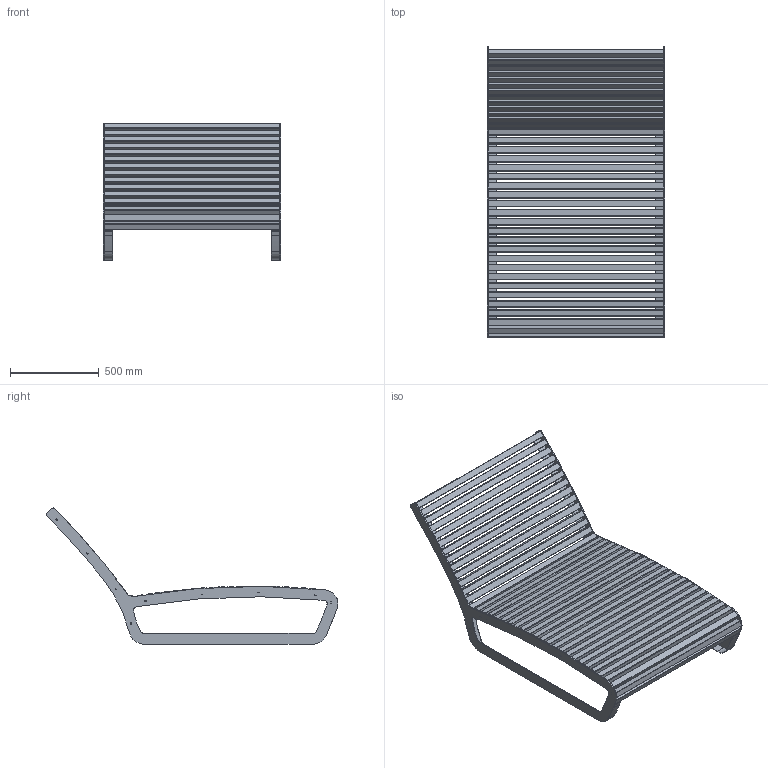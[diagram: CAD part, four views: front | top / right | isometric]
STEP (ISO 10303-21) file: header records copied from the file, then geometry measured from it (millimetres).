
FILE_DESCRIPTION(/* description */ (''),/* implementation_level */ '2;1');
FILE_NAME(/* name */ 'LTR020.01 SIMPLE.step',/* time_stamp */ '2023-08-29T15:32:54+02:00',/* author */ (''),/* organization */ (''),/* preprocessor_version */ 'ST-DEVELOPER v20',/* originating_system */ 'Autodesk Translation Framework v12.9.0.99',/* authorisation */ '');
FILE_SCHEMA (('AUTOMOTIVE_DESIGN { 1 0 10303 214 3 1 1 }'));
Length unit declared in the file: millimetre
Products named in the file (12): LTR020.01; LTR020.01_1; LTR020.01.01; LTR020.01.02; LTR020.01.03; LTR020.01.04; LTR020.01.L; LTR020.01.01.L; LTR020.01.02.L; LTR020.01.03.L; LTR020.01.04.L; LTR020.02
Assembly tree (48 placements, depth 3):
  LTR020.01
    LTR020.01_1
      LTR020.01.01
      LTR020.01.02
      LTR020.01.03
      LTR020.01.04
    LTR020.02  x38
    LTR020.01.L
      LTR020.01.01.L
      LTR020.01.02.L
      LTR020.01.03.L
      LTR020.01.04.L
Bounding box: 1000 x 1638.31 x 765.59 mm (x, y, z)
Volume: 48959066.8 mm3; surface area: 6672542.6 mm2
Topology: 46 solids, 46 shells, 606 faces, 1414 edges, 900 vertices
Faces by surface type: plane 506, cylinder 100
Entity records: 10017 total; most frequent: CARTESIAN_POINT 2018, DIRECTION 1744, ORIENTED_EDGE 1496, EDGE_CURVE 748, AXIS2_PLACEMENT_3D 630, LINE 484, VECTOR 484, VERTEX_POINT 456
